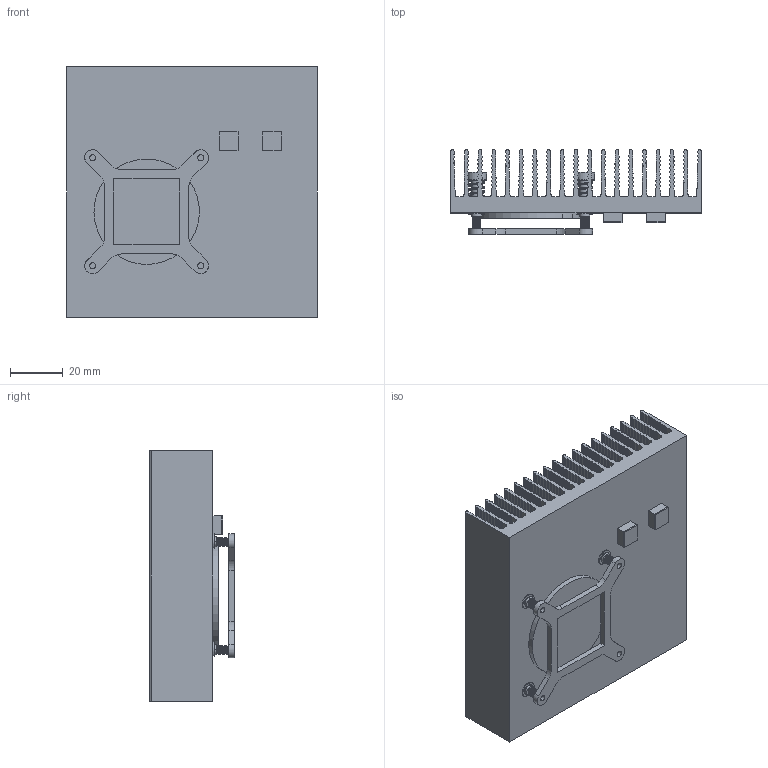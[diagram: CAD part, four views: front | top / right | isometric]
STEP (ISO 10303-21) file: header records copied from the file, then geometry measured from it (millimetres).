
FILE_DESCRIPTION((''),'2;1');
FILE_NAME('E1961213120001R-A1_ASM','2020-07-08T13:44:08',('jamie_liao'),(''),'CREO PARAMETRIC BY PTC INC, 2017110','CREO PARAMETRIC BY PTC INC, 2017110','');
FILE_SCHEMA(('CONFIG_CONTROL_DESIGN','GEOMETRIC_VALIDATION_PROPERTIES_MIM'));
Products named in the file (9): ECM-APL2_HEATSINK; SCREW-M2_5_3_2; SPRING-M2_5_2_3; SPRING-SCREW_M2_5_ASM_7_ASM_2_ASM; 6_E_RING_1; SPRING-SCREW_M2_5_ASM_ASM_4_ASM; 05T_7X7XGR25A-00; E195BKECMBYT00R_1; E1961213120001R-A1_ASM
Assembly tree (12 placements, depth 4):
  E1961213120001R-A1_ASM
    ECM-APL2_HEATSINK
    SPRING-SCREW_M2_5_ASM_ASM_4_ASM  x4
      SPRING-SCREW_M2_5_ASM_7_ASM_2_ASM
        SCREW-M2_5_3_2
        SPRING-M2_5_2_3
      6_E_RING_1
    05T_7X7XGR25A-00  x2
    E195BKECMBYT00R_1
Bounding box: 95 x 32.08 x 95 mm (x, y, z)
Volume: 103557.1 mm3; surface area: 88559.9 mm2
Topology: 16 solids, 16 shells, 2737 faces, 7930 edges, 5248 vertices
Faces by surface type: cylinder 1352, plane 1281, bspline 88, torus 16
Entity records: 86564 total; most frequent: CARTESIAN_POINT 19774, ORIENTED_EDGE 13988, DIRECTION 13641, EDGE_CURVE 6994, VERTEX_POINT 4655, AXIS2_PLACEMENT_3D 4554, VECTOR 4533, LINE 4533
